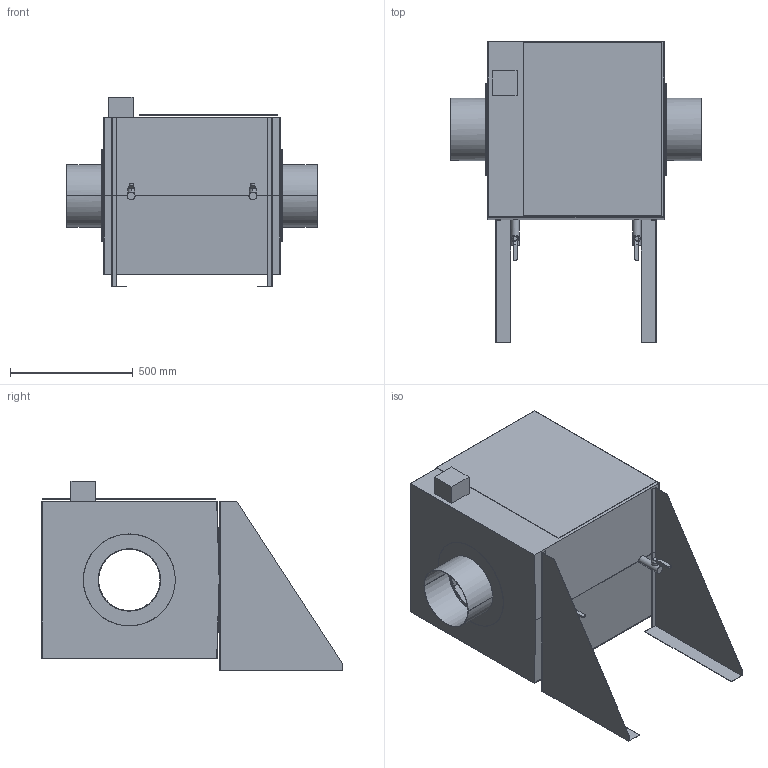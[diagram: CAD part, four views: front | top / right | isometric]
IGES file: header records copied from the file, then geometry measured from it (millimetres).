
Start section:  PTC IGES file: 51479111.igs
Global section: file name: 51479111.igs; native system: Creo Parametric by PTC Inc.; preprocessor: 2019224; author: hrl; organization: Unknown; date: 20200428.125925; units: millimetre
Bounding box: 1020 x 1225 x 772 mm (x, y, z)
Surface area: 8072962.5 mm2 (no closed solid volume)
Topology: 0 solids, 0 shells, 105 faces, 448 edges, 448 vertices
Faces by surface type: bspline 75, revolution 30
